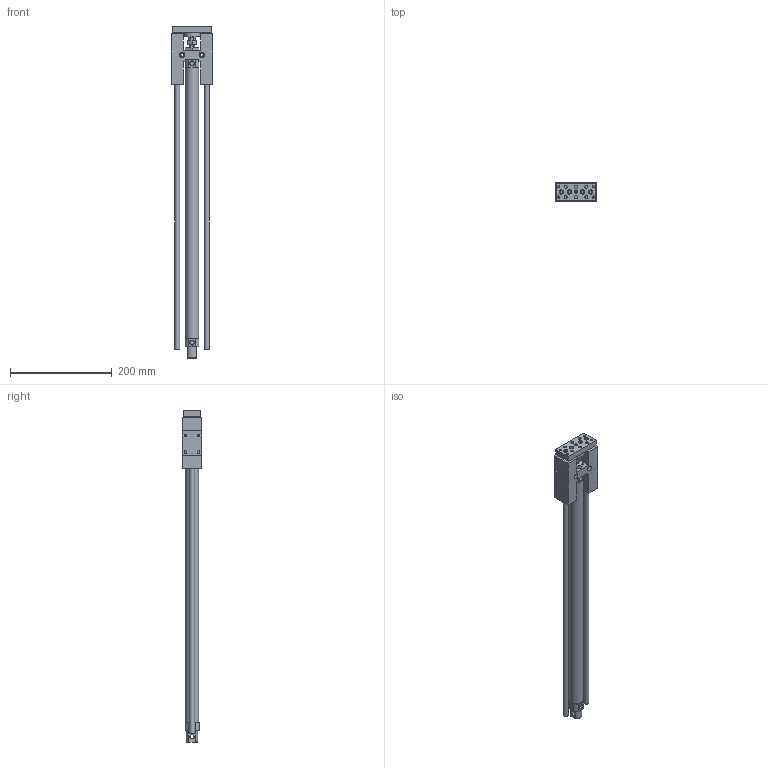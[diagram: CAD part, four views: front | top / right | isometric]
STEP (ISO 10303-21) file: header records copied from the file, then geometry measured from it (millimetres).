
FILE_DESCRIPTION((''),'2;1');
FILE_NAME('I:\3D電子目錄\氣缸\GHB(U)\GHB(U)\GHB(U)25\GHB(U)25x500.stp','2007-10-22T16:53:12',('Administrator'),(''),'Autodesk Inventor 11','Autodesk Inventor 11','');
FILE_SCHEMA(('AUTOMOTIVE_DESIGN { 1 0 10303 214 1 1 1 1 }'));
Length unit declared in the file: millimetre
Products named in the file (1): GHB(U)25
Bounding box: 82 x 38 x 651 mm (x, y, z)
Volume: 646613.8 mm3; surface area: 129796.9 mm2
Topology: 1 solids, 1 shells, 230 faces, 542 edges, 352 vertices
Faces by surface type: plane 131, cylinder 38, bspline 36, cone 25
Full cylindrical faces by diameter (mm): 4.917 x4, 5 x1, 6 x5, 7.5 x4, 8 x1, 8.5 x6, 8.6 x1, 10 x3, 13 x1, 26.6 x1, 33 x1
Entity records: 6522 total; most frequent: CARTESIAN_POINT 1583, DIRECTION 974, ORIENTED_EDGE 928, EDGE_CURVE 464, EDGE_LOOP 358, AXIS2_PLACEMENT_3D 347, VERTEX_POINT 338, VECTOR 280
